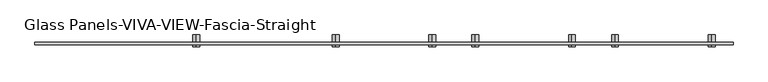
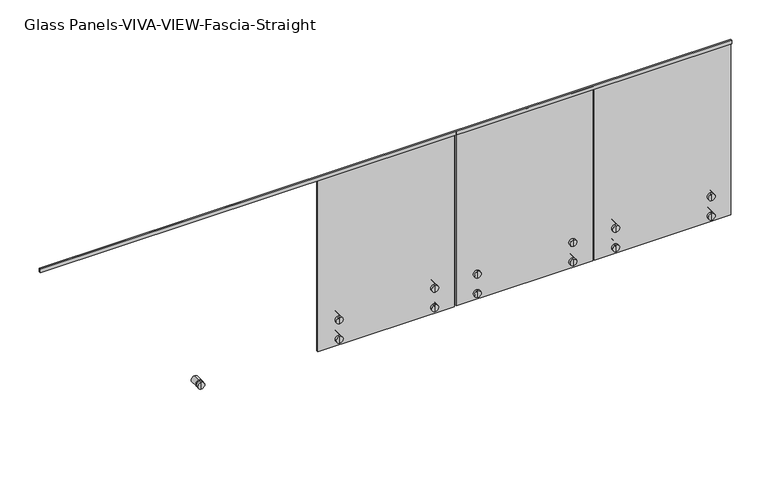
"""IFC4 building model written with IfcOpenShell, lengths in millimetres: railing geometry, Glass Panels-VIVA-VIEW-Fascia-Straight."""

from ifc_helpers import new_model, si_unit, frame, origin, place, context, project, spatial, polyline, circle_curve, outline, extrude, source, transform, mapped, element, save
from ifc_brep_helpers import plane_surface, cylinder_surface, advanced_brep


def glass_panels_viva_view_fascia_straight_8b977676(model_context):
    return source(origin(), model_context, "Body", "SolidModel", [
        extrude(outline(polyline([(-6666.5722999, 1092.2), (-6666.5722999, 1066.8), (-6668.1597999, 1066.8), (-6668.1597999, 1090.6125), (-6680.8597999, 1090.6125), (-6680.8597999, 1066.8), (-6682.4472999, 1066.8), (-6682.4472999, 1092.2), (-6666.5722999, 1092.2)])), frame((15089.4712478, 0.0, 0.0), z_axis=(1.0, 0.0, 0.0), x_axis=(0.0, 1.0, 0.0)), (0.0, 0.0, 1.0), 5143.5),
        advanced_brep(
        [(19363.4042944, -6698.322006, -254.0), (19363.4042944, -6698.322006, -203.2), (19363.4042944, -6698.322006, -228.6), (19363.4042944, -6680.859506, -254.0), (19363.4042944, -6680.859506, -203.2), (19363.4042944, -6680.859506, -234.315), (19363.4042944, -6680.859506, -222.885), (19363.4042944, -6668.159506, -234.315), (19363.4042944, -6668.159506, -222.885), (19363.4042944, -6668.159506, -254.0), (19363.4042944, -6668.159506, -203.2), (19363.4042944, -6611.0096529, -254.0), (19363.4042944, -6611.0096529, -203.2), (19363.4042944, -6611.0096529, -228.6)],
        [
            (0, 1, circle_curve(frame((19363.4042944, -6698.322006, -228.6), z_axis=(0.0, -1.0, 0.0), x_axis=(0.0, 0.0, 1.0)), 25.4)),
            (1, 2),
            (2, 0),
            (1, 0, circle_curve(frame((19363.4042944, -6698.322006, -228.6), z_axis=(0.0, -1.0, 0.0), x_axis=(0.0, 0.0, 1.0)), 25.4)),
            (3, 4, circle_curve(frame((19363.4042944, -6680.859506, -228.6), z_axis=(0.0, -1.0, 0.0), x_axis=(0.0, 0.0, 1.0)), 25.4)),
            (4, 1),
            (0, 3),
            (4, 3, circle_curve(frame((19363.4042944, -6680.859506, -228.6), z_axis=(0.0, -1.0, 0.0), x_axis=(0.0, 0.0, 1.0)), 25.4)),
            (5, 6, circle_curve(frame((19363.4042944, -6680.859506, -228.6), z_axis=(0.0, -1.0, 0.0), x_axis=(0.0, 0.0, 1.0)), 5.715)),
            (6, 4),
            (3, 5),
            (6, 5, circle_curve(frame((19363.4042944, -6680.859506, -228.6), z_axis=(0.0, -1.0, 0.0), x_axis=(0.0, 0.0, 1.0)), 5.715)),
            (7, 8, circle_curve(frame((19363.4042944, -6668.159506, -228.6), z_axis=(0.0, -1.0, 0.0), x_axis=(0.0, 0.0, 1.0)), 5.715)),
            (8, 6),
            (5, 7),
            (8, 7, circle_curve(frame((19363.4042944, -6668.159506, -228.6), z_axis=(0.0, -1.0, 0.0), x_axis=(0.0, 0.0, 1.0)), 5.715)),
            (9, 10, circle_curve(frame((19363.4042944, -6668.159506, -228.6), z_axis=(0.0, -1.0, 0.0), x_axis=(0.0, 0.0, 1.0)), 25.4)),
            (10, 8),
            (7, 9),
            (10, 9, circle_curve(frame((19363.4042944, -6668.159506, -228.6), z_axis=(0.0, -1.0, 0.0), x_axis=(0.0, 0.0, 1.0)), 25.4)),
            (11, 12, circle_curve(frame((19363.4042944, -6611.0096529, -228.6), z_axis=(0.0, -1.0, 0.0), x_axis=(0.0, 0.0, 1.0)), 25.4)),
            (12, 10),
            (9, 11),
            (12, 11, circle_curve(frame((19363.4042944, -6611.0096529, -228.6), z_axis=(0.0, -1.0, 0.0), x_axis=(0.0, 0.0, 1.0)), 25.4)),
            (13, 12),
            (11, 13),
        ],
        [
            plane_surface(frame((19363.4042944, -6698.322006, -228.6), z_axis=(0.0, -1.0, 0.0), x_axis=(0.0, 0.0, 1.0))),
            cylinder_surface(frame((19363.4042944, -6766.5846529, -228.6), z_axis=(0.0, 1.0, 0.0), x_axis=(0.0, 0.0, 1.0)), 25.4),
            plane_surface(frame((19363.4042944, -6680.859506, -228.6), z_axis=(0.0, 1.0, 0.0), x_axis=(0.0, 0.0, 1.0))),
            cylinder_surface(frame((19363.4042944, -6766.5846529, -228.6), z_axis=(0.0, 1.0, 0.0), x_axis=(0.0, 0.0, 1.0)), 5.715),
            plane_surface(frame((19363.4042944, -6668.159506, -228.6), z_axis=(0.0, -1.0, 0.0), x_axis=(0.0, 0.0, 1.0))),
            plane_surface(frame((19363.4042944, -6611.0096529, -228.6), z_axis=(0.0, 1.0, 0.0), x_axis=(0.0, 0.0, 1.0))),
        ],
        [
            (0, [[1, 2, 3]]),
            (0, [[4, -3, -2]]),
            (1, [[5, 6, -1, 7]]),
            (1, [[8, -7, -4, -6]]),
            (2, [[9, 10, -5, 11]]),
            (2, [[12, -11, -8, -10]]),
            (3, [[13, 14, -9, 15]]),
            (3, [[16, -15, -12, -14]]),
            (4, [[17, 18, -13, 19]]),
            (4, [[20, -19, -16, -18]]),
            (1, [[21, 22, -17, 23]]),
            (1, [[24, -23, -20, -22]]),
            (5, [[25, -21, 26]]),
            (5, [[-26, -24, -25]]),
        ],
    ),
        advanced_brep(
        [(19363.4042944, -6680.859506, -81.915), (19363.4042944, -6680.859506, -70.485), (19363.4042944, -6680.859506, -50.8), (19363.4042944, -6680.859506, -101.6), (19363.4042944, -6668.159506, -81.915), (19363.4042944, -6668.159506, -70.485), (19363.4042944, -6668.159506, -101.6), (19363.4042944, -6668.159506, -50.8), (19363.4042944, -6611.0096529, -101.6), (19363.4042944, -6611.0096529, -50.8), (19363.4042944, -6611.0096529, -76.2), (19363.4042944, -6698.322006, -101.6), (19363.4042944, -6698.322006, -50.8), (19363.4042944, -6698.322006, -76.2)],
        [
            (0, 1, circle_curve(frame((19363.4042944, -6680.859506, -76.2), z_axis=(0.0, -1.0, 0.0), x_axis=(0.0, 0.0, 1.0)), 5.715)),
            (1, 2),
            (2, 3, circle_curve(frame((19363.4042944, -6680.859506, -76.2), z_axis=(0.0, 1.0, 0.0), x_axis=(0.0, 0.0, 1.0)), 25.4)),
            (3, 0),
            (1, 0, circle_curve(frame((19363.4042944, -6680.859506, -76.2), z_axis=(0.0, -1.0, 0.0), x_axis=(0.0, 0.0, 1.0)), 5.715)),
            (3, 2, circle_curve(frame((19363.4042944, -6680.859506, -76.2), z_axis=(0.0, 1.0, 0.0), x_axis=(0.0, 0.0, 1.0)), 25.4)),
            (4, 5, circle_curve(frame((19363.4042944, -6668.159506, -76.2), z_axis=(0.0, -1.0, 0.0), x_axis=(0.0, 0.0, 1.0)), 5.715)),
            (5, 1),
            (0, 4),
            (5, 4, circle_curve(frame((19363.4042944, -6668.159506, -76.2), z_axis=(0.0, -1.0, 0.0), x_axis=(0.0, 0.0, 1.0)), 5.715)),
            (6, 7, circle_curve(frame((19363.4042944, -6668.159506, -76.2), z_axis=(0.0, -1.0, 0.0), x_axis=(0.0, 0.0, 1.0)), 25.4)),
            (7, 5),
            (4, 6),
            (7, 6, circle_curve(frame((19363.4042944, -6668.159506, -76.2), z_axis=(0.0, -1.0, 0.0), x_axis=(0.0, 0.0, 1.0)), 25.4)),
            (8, 9, circle_curve(frame((19363.4042944, -6611.0096529, -76.2), z_axis=(0.0, -1.0, 0.0), x_axis=(0.0, 0.0, 1.0)), 25.4)),
            (9, 7),
            (6, 8),
            (9, 8, circle_curve(frame((19363.4042944, -6611.0096529, -76.2), z_axis=(0.0, -1.0, 0.0), x_axis=(0.0, 0.0, 1.0)), 25.4)),
            (10, 9),
            (8, 10),
            (11, 12, circle_curve(frame((19363.4042944, -6698.322006, -76.2), z_axis=(0.0, -1.0, 0.0), x_axis=(0.0, 0.0, 1.0)), 25.4)),
            (12, 13),
            (13, 11),
            (12, 11, circle_curve(frame((19363.4042944, -6698.322006, -76.2), z_axis=(0.0, -1.0, 0.0), x_axis=(0.0, 0.0, 1.0)), 25.4)),
            (2, 12),
            (11, 3),
        ],
        [
            plane_surface(frame((19363.4042944, -6680.859506, -76.2), z_axis=(0.0, 1.0, 0.0), x_axis=(0.0, 0.0, 1.0))),
            cylinder_surface(frame((19363.4042944, -6766.5846529, -76.2), z_axis=(0.0, 1.0, 0.0), x_axis=(0.0, 0.0, 1.0)), 5.715),
            plane_surface(frame((19363.4042944, -6668.159506, -76.2), z_axis=(0.0, -1.0, 0.0), x_axis=(0.0, 0.0, 1.0))),
            cylinder_surface(frame((19363.4042944, -6766.5846529, -76.2), z_axis=(0.0, 1.0, 0.0), x_axis=(0.0, 0.0, 1.0)), 25.4),
            plane_surface(frame((19363.4042944, -6611.0096529, -76.2), z_axis=(0.0, 1.0, 0.0), x_axis=(0.0, 0.0, 1.0))),
            plane_surface(frame((19363.4042944, -6698.322006, -76.2), z_axis=(0.0, -1.0, 0.0), x_axis=(0.0, 0.0, 1.0))),
        ],
        [
            (0, [[1, 2, 3, 4]]),
            (0, [[5, -4, 6, -2]]),
            (1, [[7, 8, -1, 9]]),
            (1, [[10, -9, -5, -8]]),
            (2, [[11, 12, -7, 13]]),
            (2, [[14, -13, -10, -12]]),
            (3, [[15, 16, -11, 17]]),
            (3, [[18, -17, -14, -16]]),
            (4, [[19, -15, 20]]),
            (4, [[-20, -18, -19]]),
            (5, [[21, 22, 23]]),
            (5, [[24, -23, -22]]),
            (3, [[-3, 25, -21, 26]]),
            (3, [[-6, -26, -24, -25]]),
        ],
    ),
        advanced_brep(
        [(20074.6042944, -6698.322006, -254.0), (20074.6042944, -6698.322006, -203.2), (20074.6042944, -6698.322006, -228.6), (20074.6042944, -6680.859506, -254.0), (20074.6042944, -6680.859506, -203.2), (20074.6042944, -6680.859506, -234.315), (20074.6042944, -6680.859506, -222.885), (20074.6042944, -6668.159506, -234.315), (20074.6042944, -6668.159506, -222.885), (20074.6042944, -6668.159506, -254.0), (20074.6042944, -6668.159506, -203.2), (20074.6042944, -6611.0096529, -254.0), (20074.6042944, -6611.0096529, -203.2), (20074.6042944, -6611.0096529, -228.6)],
        [
            (0, 1, circle_curve(frame((20074.6042944, -6698.322006, -228.6), z_axis=(0.0, -1.0, 0.0), x_axis=(0.0, 0.0, 1.0)), 25.4)),
            (1, 2),
            (2, 0),
            (1, 0, circle_curve(frame((20074.6042944, -6698.322006, -228.6), z_axis=(0.0, -1.0, 0.0), x_axis=(0.0, 0.0, 1.0)), 25.4)),
            (3, 4, circle_curve(frame((20074.6042944, -6680.859506, -228.6), z_axis=(0.0, -1.0, 0.0), x_axis=(0.0, 0.0, 1.0)), 25.4)),
            (4, 1),
            (0, 3),
            (4, 3, circle_curve(frame((20074.6042944, -6680.859506, -228.6), z_axis=(0.0, -1.0, 0.0), x_axis=(0.0, 0.0, 1.0)), 25.4)),
            (5, 6, circle_curve(frame((20074.6042944, -6680.859506, -228.6), z_axis=(0.0, -1.0, 0.0), x_axis=(0.0, 0.0, 1.0)), 5.715)),
            (6, 4),
            (3, 5),
            (6, 5, circle_curve(frame((20074.6042944, -6680.859506, -228.6), z_axis=(0.0, -1.0, 0.0), x_axis=(0.0, 0.0, 1.0)), 5.715)),
            (7, 8, circle_curve(frame((20074.6042944, -6668.159506, -228.6), z_axis=(0.0, -1.0, 0.0), x_axis=(0.0, 0.0, 1.0)), 5.715)),
            (8, 6),
            (5, 7),
            (8, 7, circle_curve(frame((20074.6042944, -6668.159506, -228.6), z_axis=(0.0, -1.0, 0.0), x_axis=(0.0, 0.0, 1.0)), 5.715)),
            (9, 10, circle_curve(frame((20074.6042944, -6668.159506, -228.6), z_axis=(0.0, -1.0, 0.0), x_axis=(0.0, 0.0, 1.0)), 25.4)),
            (10, 8),
            (7, 9),
            (10, 9, circle_curve(frame((20074.6042944, -6668.159506, -228.6), z_axis=(0.0, -1.0, 0.0), x_axis=(0.0, 0.0, 1.0)), 25.4)),
            (11, 12, circle_curve(frame((20074.6042944, -6611.0096529, -228.6), z_axis=(0.0, -1.0, 0.0), x_axis=(0.0, 0.0, 1.0)), 25.4)),
            (12, 10),
            (9, 11),
            (12, 11, circle_curve(frame((20074.6042944, -6611.0096529, -228.6), z_axis=(0.0, -1.0, 0.0), x_axis=(0.0, 0.0, 1.0)), 25.4)),
            (13, 12),
            (11, 13),
        ],
        [
            plane_surface(frame((20074.6042944, -6698.322006, -228.6), z_axis=(0.0, -1.0, 0.0), x_axis=(0.0, 0.0, 1.0))),
            cylinder_surface(frame((20074.6042944, -6766.5846529, -228.6), z_axis=(0.0, 1.0, 0.0), x_axis=(0.0, 0.0, 1.0)), 25.4),
            plane_surface(frame((20074.6042944, -6680.859506, -228.6), z_axis=(0.0, 1.0, 0.0), x_axis=(0.0, 0.0, 1.0))),
            cylinder_surface(frame((20074.6042944, -6766.5846529, -228.6), z_axis=(0.0, 1.0, 0.0), x_axis=(0.0, 0.0, 1.0)), 5.715),
            plane_surface(frame((20074.6042944, -6668.159506, -228.6), z_axis=(0.0, -1.0, 0.0), x_axis=(0.0, 0.0, 1.0))),
            plane_surface(frame((20074.6042944, -6611.0096529, -228.6), z_axis=(0.0, 1.0, 0.0), x_axis=(0.0, 0.0, 1.0))),
        ],
        [
            (0, [[1, 2, 3]]),
            (0, [[4, -3, -2]]),
            (1, [[5, 6, -1, 7]]),
            (1, [[8, -7, -4, -6]]),
            (2, [[9, 10, -5, 11]]),
            (2, [[12, -11, -8, -10]]),
            (3, [[13, 14, -9, 15]]),
            (3, [[16, -15, -12, -14]]),
            (4, [[17, 18, -13, 19]]),
            (4, [[20, -19, -16, -18]]),
            (1, [[21, 22, -17, 23]]),
            (1, [[24, -23, -20, -22]]),
            (5, [[25, -21, 26]]),
            (5, [[-26, -24, -25]]),
        ],
    ),
        advanced_brep(
        [(20074.6042944, -6680.859506, -81.915), (20074.6042944, -6680.859506, -70.485), (20074.6042944, -6680.859506, -50.8), (20074.6042944, -6680.859506, -101.6), (20074.6042944, -6668.159506, -81.915), (20074.6042944, -6668.159506, -70.485), (20074.6042944, -6668.159506, -101.6), (20074.6042944, -6668.159506, -50.8), (20074.6042944, -6611.0096529, -101.6), (20074.6042944, -6611.0096529, -50.8), (20074.6042944, -6611.0096529, -76.2), (20074.6042944, -6698.322006, -101.6), (20074.6042944, -6698.322006, -50.8), (20074.6042944, -6698.322006, -76.2)],
        [
            (0, 1, circle_curve(frame((20074.6042944, -6680.859506, -76.2), z_axis=(0.0, -1.0, 0.0), x_axis=(0.0, 0.0, 1.0)), 5.715)),
            (1, 2),
            (2, 3, circle_curve(frame((20074.6042944, -6680.859506, -76.2), z_axis=(0.0, 1.0, 0.0), x_axis=(0.0, 0.0, 1.0)), 25.4)),
            (3, 0),
            (1, 0, circle_curve(frame((20074.6042944, -6680.859506, -76.2), z_axis=(0.0, -1.0, 0.0), x_axis=(0.0, 0.0, 1.0)), 5.715)),
            (3, 2, circle_curve(frame((20074.6042944, -6680.859506, -76.2), z_axis=(0.0, 1.0, 0.0), x_axis=(0.0, 0.0, 1.0)), 25.4)),
            (4, 5, circle_curve(frame((20074.6042944, -6668.159506, -76.2), z_axis=(0.0, -1.0, 0.0), x_axis=(0.0, 0.0, 1.0)), 5.715)),
            (5, 1),
            (0, 4),
            (5, 4, circle_curve(frame((20074.6042944, -6668.159506, -76.2), z_axis=(0.0, -1.0, 0.0), x_axis=(0.0, 0.0, 1.0)), 5.715)),
            (6, 7, circle_curve(frame((20074.6042944, -6668.159506, -76.2), z_axis=(0.0, -1.0, 0.0), x_axis=(0.0, 0.0, 1.0)), 25.4)),
            (7, 5),
            (4, 6),
            (7, 6, circle_curve(frame((20074.6042944, -6668.159506, -76.2), z_axis=(0.0, -1.0, 0.0), x_axis=(0.0, 0.0, 1.0)), 25.4)),
            (8, 9, circle_curve(frame((20074.6042944, -6611.0096529, -76.2), z_axis=(0.0, -1.0, 0.0), x_axis=(0.0, 0.0, 1.0)), 25.4)),
            (9, 7),
            (6, 8),
            (9, 8, circle_curve(frame((20074.6042944, -6611.0096529, -76.2), z_axis=(0.0, -1.0, 0.0), x_axis=(0.0, 0.0, 1.0)), 25.4)),
            (10, 9),
            (8, 10),
            (11, 12, circle_curve(frame((20074.6042944, -6698.322006, -76.2), z_axis=(0.0, -1.0, 0.0), x_axis=(0.0, 0.0, 1.0)), 25.4)),
            (12, 13),
            (13, 11),
            (12, 11, circle_curve(frame((20074.6042944, -6698.322006, -76.2), z_axis=(0.0, -1.0, 0.0), x_axis=(0.0, 0.0, 1.0)), 25.4)),
            (2, 12),
            (11, 3),
        ],
        [
            plane_surface(frame((20074.6042944, -6680.859506, -76.2), z_axis=(0.0, 1.0, 0.0), x_axis=(0.0, 0.0, 1.0))),
            cylinder_surface(frame((20074.6042944, -6766.5846529, -76.2), z_axis=(0.0, 1.0, 0.0), x_axis=(0.0, 0.0, 1.0)), 5.715),
            plane_surface(frame((20074.6042944, -6668.159506, -76.2), z_axis=(0.0, -1.0, 0.0), x_axis=(0.0, 0.0, 1.0))),
            cylinder_surface(frame((20074.6042944, -6766.5846529, -76.2), z_axis=(0.0, 1.0, 0.0), x_axis=(0.0, 0.0, 1.0)), 25.4),
            plane_surface(frame((20074.6042944, -6611.0096529, -76.2), z_axis=(0.0, 1.0, 0.0), x_axis=(0.0, 0.0, 1.0))),
            plane_surface(frame((20074.6042944, -6698.322006, -76.2), z_axis=(0.0, -1.0, 0.0), x_axis=(0.0, 0.0, 1.0))),
        ],
        [
            (0, [[1, 2, 3, 4]]),
            (0, [[5, -4, 6, -2]]),
            (1, [[7, 8, -1, 9]]),
            (1, [[10, -9, -5, -8]]),
            (2, [[11, 12, -7, 13]]),
            (2, [[14, -13, -10, -12]]),
            (3, [[15, 16, -11, 17]]),
            (3, [[18, -17, -14, -16]]),
            (4, [[19, -15, 20]]),
            (4, [[-20, -18, -19]]),
            (5, [[21, 22, 23]]),
            (5, [[24, -23, -22]]),
            (3, [[-3, 25, -21, 26]]),
            (3, [[-6, -26, -24, -25]]),
        ],
    ),
        extrude(outline(polyline([(19211.0042944, -6668.1597999), (20227.0042944, -6668.1597999), (20227.0042944, -6680.8597999), (19211.0042944, -6680.8597999), (19211.0042944, -6668.1597999)])), frame((0.0, 0.0, -279.4), z_axis=(0.0, 0.0, 1.0), x_axis=(1.0, 0.0, 0.0)), (0.0, 0.0, 1.0), 1370.0125),
        advanced_brep(
        [(18334.7042944, -6698.322006, -254.0), (18334.7042944, -6698.322006, -203.2), (18334.7042944, -6698.322006, -228.6), (18334.7042944, -6680.859506, -254.0), (18334.7042944, -6680.859506, -203.2), (18334.7042944, -6680.859506, -234.315), (18334.7042944, -6680.859506, -222.885), (18334.7042944, -6668.159506, -234.315), (18334.7042944, -6668.159506, -222.885), (18334.7042944, -6668.159506, -254.0), (18334.7042944, -6668.159506, -203.2), (18334.7042944, -6611.0096529, -254.0), (18334.7042944, -6611.0096529, -203.2), (18334.7042944, -6611.0096529, -228.6)],
        [
            (0, 1, circle_curve(frame((18334.7042944, -6698.322006, -228.6), z_axis=(0.0, -1.0, 0.0), x_axis=(0.0, 0.0, 1.0)), 25.4)),
            (1, 2),
            (2, 0),
            (1, 0, circle_curve(frame((18334.7042944, -6698.322006, -228.6), z_axis=(0.0, -1.0, 0.0), x_axis=(0.0, 0.0, 1.0)), 25.4)),
            (3, 4, circle_curve(frame((18334.7042944, -6680.859506, -228.6), z_axis=(0.0, -1.0, 0.0), x_axis=(0.0, 0.0, 1.0)), 25.4)),
            (4, 1),
            (0, 3),
            (4, 3, circle_curve(frame((18334.7042944, -6680.859506, -228.6), z_axis=(0.0, -1.0, 0.0), x_axis=(0.0, 0.0, 1.0)), 25.4)),
            (5, 6, circle_curve(frame((18334.7042944, -6680.859506, -228.6), z_axis=(0.0, -1.0, 0.0), x_axis=(0.0, 0.0, 1.0)), 5.715)),
            (6, 4),
            (3, 5),
            (6, 5, circle_curve(frame((18334.7042944, -6680.859506, -228.6), z_axis=(0.0, -1.0, 0.0), x_axis=(0.0, 0.0, 1.0)), 5.715)),
            (7, 8, circle_curve(frame((18334.7042944, -6668.159506, -228.6), z_axis=(0.0, -1.0, 0.0), x_axis=(0.0, 0.0, 1.0)), 5.715)),
            (8, 6),
            (5, 7),
            (8, 7, circle_curve(frame((18334.7042944, -6668.159506, -228.6), z_axis=(0.0, -1.0, 0.0), x_axis=(0.0, 0.0, 1.0)), 5.715)),
            (9, 10, circle_curve(frame((18334.7042944, -6668.159506, -228.6), z_axis=(0.0, -1.0, 0.0), x_axis=(0.0, 0.0, 1.0)), 25.4)),
            (10, 8),
            (7, 9),
            (10, 9, circle_curve(frame((18334.7042944, -6668.159506, -228.6), z_axis=(0.0, -1.0, 0.0), x_axis=(0.0, 0.0, 1.0)), 25.4)),
            (11, 12, circle_curve(frame((18334.7042944, -6611.0096529, -228.6), z_axis=(0.0, -1.0, 0.0), x_axis=(0.0, 0.0, 1.0)), 25.4)),
            (12, 10),
            (9, 11),
            (12, 11, circle_curve(frame((18334.7042944, -6611.0096529, -228.6), z_axis=(0.0, -1.0, 0.0), x_axis=(0.0, 0.0, 1.0)), 25.4)),
            (13, 12),
            (11, 13),
        ],
        [
            plane_surface(frame((18334.7042944, -6698.322006, -228.6), z_axis=(0.0, -1.0, 0.0), x_axis=(0.0, 0.0, 1.0))),
            cylinder_surface(frame((18334.7042944, -6766.5846529, -228.6), z_axis=(0.0, 1.0, 0.0), x_axis=(0.0, 0.0, 1.0)), 25.4),
            plane_surface(frame((18334.7042944, -6680.859506, -228.6), z_axis=(0.0, 1.0, 0.0), x_axis=(0.0, 0.0, 1.0))),
            cylinder_surface(frame((18334.7042944, -6766.5846529, -228.6), z_axis=(0.0, 1.0, 0.0), x_axis=(0.0, 0.0, 1.0)), 5.715),
            plane_surface(frame((18334.7042944, -6668.159506, -228.6), z_axis=(0.0, -1.0, 0.0), x_axis=(0.0, 0.0, 1.0))),
            plane_surface(frame((18334.7042944, -6611.0096529, -228.6), z_axis=(0.0, 1.0, 0.0), x_axis=(0.0, 0.0, 1.0))),
        ],
        [
            (0, [[1, 2, 3]]),
            (0, [[4, -3, -2]]),
            (1, [[5, 6, -1, 7]]),
            (1, [[8, -7, -4, -6]]),
            (2, [[9, 10, -5, 11]]),
            (2, [[12, -11, -8, -10]]),
            (3, [[13, 14, -9, 15]]),
            (3, [[16, -15, -12, -14]]),
            (4, [[17, 18, -13, 19]]),
            (4, [[20, -19, -16, -18]]),
            (1, [[21, 22, -17, 23]]),
            (1, [[24, -23, -20, -22]]),
            (5, [[25, -21, 26]]),
            (5, [[-26, -24, -25]]),
        ],
    ),
        advanced_brep(
        [(18334.7042944, -6680.859506, -81.915), (18334.7042944, -6680.859506, -70.485), (18334.7042944, -6680.859506, -50.8), (18334.7042944, -6680.859506, -101.6), (18334.7042944, -6668.159506, -81.915), (18334.7042944, -6668.159506, -70.485), (18334.7042944, -6668.159506, -101.6), (18334.7042944, -6668.159506, -50.8), (18334.7042944, -6611.0096529, -101.6), (18334.7042944, -6611.0096529, -50.8), (18334.7042944, -6611.0096529, -76.2), (18334.7042944, -6698.322006, -101.6), (18334.7042944, -6698.322006, -50.8), (18334.7042944, -6698.322006, -76.2)],
        [
            (0, 1, circle_curve(frame((18334.7042944, -6680.859506, -76.2), z_axis=(0.0, -1.0, 0.0), x_axis=(0.0, 0.0, 1.0)), 5.715)),
            (1, 2),
            (2, 3, circle_curve(frame((18334.7042944, -6680.859506, -76.2), z_axis=(0.0, 1.0, 0.0), x_axis=(0.0, 0.0, 1.0)), 25.4)),
            (3, 0),
            (1, 0, circle_curve(frame((18334.7042944, -6680.859506, -76.2), z_axis=(0.0, -1.0, 0.0), x_axis=(0.0, 0.0, 1.0)), 5.715)),
            (3, 2, circle_curve(frame((18334.7042944, -6680.859506, -76.2), z_axis=(0.0, 1.0, 0.0), x_axis=(0.0, 0.0, 1.0)), 25.4)),
            (4, 5, circle_curve(frame((18334.7042944, -6668.159506, -76.2), z_axis=(0.0, -1.0, 0.0), x_axis=(0.0, 0.0, 1.0)), 5.715)),
            (5, 1),
            (0, 4),
            (5, 4, circle_curve(frame((18334.7042944, -6668.159506, -76.2), z_axis=(0.0, -1.0, 0.0), x_axis=(0.0, 0.0, 1.0)), 5.715)),
            (6, 7, circle_curve(frame((18334.7042944, -6668.159506, -76.2), z_axis=(0.0, -1.0, 0.0), x_axis=(0.0, 0.0, 1.0)), 25.4)),
            (7, 5),
            (4, 6),
            (7, 6, circle_curve(frame((18334.7042944, -6668.159506, -76.2), z_axis=(0.0, -1.0, 0.0), x_axis=(0.0, 0.0, 1.0)), 25.4)),
            (8, 9, circle_curve(frame((18334.7042944, -6611.0096529, -76.2), z_axis=(0.0, -1.0, 0.0), x_axis=(0.0, 0.0, 1.0)), 25.4)),
            (9, 7),
            (6, 8),
            (9, 8, circle_curve(frame((18334.7042944, -6611.0096529, -76.2), z_axis=(0.0, -1.0, 0.0), x_axis=(0.0, 0.0, 1.0)), 25.4)),
            (10, 9),
            (8, 10),
            (11, 12, circle_curve(frame((18334.7042944, -6698.322006, -76.2), z_axis=(0.0, -1.0, 0.0), x_axis=(0.0, 0.0, 1.0)), 25.4)),
            (12, 13),
            (13, 11),
            (12, 11, circle_curve(frame((18334.7042944, -6698.322006, -76.2), z_axis=(0.0, -1.0, 0.0), x_axis=(0.0, 0.0, 1.0)), 25.4)),
            (2, 12),
            (11, 3),
        ],
        [
            plane_surface(frame((18334.7042944, -6680.859506, -76.2), z_axis=(0.0, 1.0, 0.0), x_axis=(0.0, 0.0, 1.0))),
            cylinder_surface(frame((18334.7042944, -6766.5846529, -76.2), z_axis=(0.0, 1.0, 0.0), x_axis=(0.0, 0.0, 1.0)), 5.715),
            plane_surface(frame((18334.7042944, -6668.159506, -76.2), z_axis=(0.0, -1.0, 0.0), x_axis=(0.0, 0.0, 1.0))),
            cylinder_surface(frame((18334.7042944, -6766.5846529, -76.2), z_axis=(0.0, 1.0, 0.0), x_axis=(0.0, 0.0, 1.0)), 25.4),
            plane_surface(frame((18334.7042944, -6611.0096529, -76.2), z_axis=(0.0, 1.0, 0.0), x_axis=(0.0, 0.0, 1.0))),
            plane_surface(frame((18334.7042944, -6698.322006, -76.2), z_axis=(0.0, -1.0, 0.0), x_axis=(0.0, 0.0, 1.0))),
        ],
        [
            (0, [[1, 2, 3, 4]]),
            (0, [[5, -4, 6, -2]]),
            (1, [[7, 8, -1, 9]]),
            (1, [[10, -9, -5, -8]]),
            (2, [[11, 12, -7, 13]]),
            (2, [[14, -13, -10, -12]]),
            (3, [[15, 16, -11, 17]]),
            (3, [[18, -17, -14, -16]]),
            (4, [[19, -15, 20]]),
            (4, [[-20, -18, -19]]),
            (5, [[21, 22, 23]]),
            (5, [[24, -23, -22]]),
            (3, [[-3, 25, -21, 26]]),
            (3, [[-6, -26, -24, -25]]),
        ],
    ),
        advanced_brep(
        [(19045.9042944, -6698.322006, -254.0), (19045.9042944, -6698.322006, -203.2), (19045.9042944, -6698.322006, -228.6), (19045.9042944, -6680.859506, -254.0), (19045.9042944, -6680.859506, -203.2), (19045.9042944, -6680.859506, -234.315), (19045.9042944, -6680.859506, -222.885), (19045.9042944, -6668.159506, -234.315), (19045.9042944, -6668.159506, -222.885), (19045.9042944, -6668.159506, -254.0), (19045.9042944, -6668.159506, -203.2), (19045.9042944, -6611.0096529, -254.0), (19045.9042944, -6611.0096529, -203.2), (19045.9042944, -6611.0096529, -228.6)],
        [
            (0, 1, circle_curve(frame((19045.9042944, -6698.322006, -228.6), z_axis=(0.0, -1.0, 0.0), x_axis=(0.0, 0.0, 1.0)), 25.4)),
            (1, 2),
            (2, 0),
            (1, 0, circle_curve(frame((19045.9042944, -6698.322006, -228.6), z_axis=(0.0, -1.0, 0.0), x_axis=(0.0, 0.0, 1.0)), 25.4)),
            (3, 4, circle_curve(frame((19045.9042944, -6680.859506, -228.6), z_axis=(0.0, -1.0, 0.0), x_axis=(0.0, 0.0, 1.0)), 25.4)),
            (4, 1),
            (0, 3),
            (4, 3, circle_curve(frame((19045.9042944, -6680.859506, -228.6), z_axis=(0.0, -1.0, 0.0), x_axis=(0.0, 0.0, 1.0)), 25.4)),
            (5, 6, circle_curve(frame((19045.9042944, -6680.859506, -228.6), z_axis=(0.0, -1.0, 0.0), x_axis=(0.0, 0.0, 1.0)), 5.715)),
            (6, 4),
            (3, 5),
            (6, 5, circle_curve(frame((19045.9042944, -6680.859506, -228.6), z_axis=(0.0, -1.0, 0.0), x_axis=(0.0, 0.0, 1.0)), 5.715)),
            (7, 8, circle_curve(frame((19045.9042944, -6668.159506, -228.6), z_axis=(0.0, -1.0, 0.0), x_axis=(0.0, 0.0, 1.0)), 5.715)),
            (8, 6),
            (5, 7),
            (8, 7, circle_curve(frame((19045.9042944, -6668.159506, -228.6), z_axis=(0.0, -1.0, 0.0), x_axis=(0.0, 0.0, 1.0)), 5.715)),
            (9, 10, circle_curve(frame((19045.9042944, -6668.159506, -228.6), z_axis=(0.0, -1.0, 0.0), x_axis=(0.0, 0.0, 1.0)), 25.4)),
            (10, 8),
            (7, 9),
            (10, 9, circle_curve(frame((19045.9042944, -6668.159506, -228.6), z_axis=(0.0, -1.0, 0.0), x_axis=(0.0, 0.0, 1.0)), 25.4)),
            (11, 12, circle_curve(frame((19045.9042944, -6611.0096529, -228.6), z_axis=(0.0, -1.0, 0.0), x_axis=(0.0, 0.0, 1.0)), 25.4)),
            (12, 10),
            (9, 11),
            (12, 11, circle_curve(frame((19045.9042944, -6611.0096529, -228.6), z_axis=(0.0, -1.0, 0.0), x_axis=(0.0, 0.0, 1.0)), 25.4)),
            (13, 12),
            (11, 13),
        ],
        [
            plane_surface(frame((19045.9042944, -6698.322006, -228.6), z_axis=(0.0, -1.0, 0.0), x_axis=(0.0, 0.0, 1.0))),
            cylinder_surface(frame((19045.9042944, -6766.5846529, -228.6), z_axis=(0.0, 1.0, 0.0), x_axis=(0.0, 0.0, 1.0)), 25.4),
            plane_surface(frame((19045.9042944, -6680.859506, -228.6), z_axis=(0.0, 1.0, 0.0), x_axis=(0.0, 0.0, 1.0))),
            cylinder_surface(frame((19045.9042944, -6766.5846529, -228.6), z_axis=(0.0, 1.0, 0.0), x_axis=(0.0, 0.0, 1.0)), 5.715),
            plane_surface(frame((19045.9042944, -6668.159506, -228.6), z_axis=(0.0, -1.0, 0.0), x_axis=(0.0, 0.0, 1.0))),
            plane_surface(frame((19045.9042944, -6611.0096529, -228.6), z_axis=(0.0, 1.0, 0.0), x_axis=(0.0, 0.0, 1.0))),
        ],
        [
            (0, [[1, 2, 3]]),
            (0, [[4, -3, -2]]),
            (1, [[5, 6, -1, 7]]),
            (1, [[8, -7, -4, -6]]),
            (2, [[9, 10, -5, 11]]),
            (2, [[12, -11, -8, -10]]),
            (3, [[13, 14, -9, 15]]),
            (3, [[16, -15, -12, -14]]),
            (4, [[17, 18, -13, 19]]),
            (4, [[20, -19, -16, -18]]),
            (1, [[21, 22, -17, 23]]),
            (1, [[24, -23, -20, -22]]),
            (5, [[25, -21, 26]]),
            (5, [[-26, -24, -25]]),
        ],
    ),
        advanced_brep(
        [(19045.9042944, -6680.859506, -81.915), (19045.9042944, -6680.859506, -70.485), (19045.9042944, -6680.859506, -50.8), (19045.9042944, -6680.859506, -101.6), (19045.9042944, -6668.159506, -81.915), (19045.9042944, -6668.159506, -70.485), (19045.9042944, -6668.159506, -101.6), (19045.9042944, -6668.159506, -50.8), (19045.9042944, -6611.0096529, -101.6), (19045.9042944, -6611.0096529, -50.8), (19045.9042944, -6611.0096529, -76.2), (19045.9042944, -6698.322006, -101.6), (19045.9042944, -6698.322006, -50.8), (19045.9042944, -6698.322006, -76.2)],
        [
            (0, 1, circle_curve(frame((19045.9042944, -6680.859506, -76.2), z_axis=(0.0, -1.0, 0.0), x_axis=(0.0, 0.0, 1.0)), 5.715)),
            (1, 2),
            (2, 3, circle_curve(frame((19045.9042944, -6680.859506, -76.2), z_axis=(0.0, 1.0, 0.0), x_axis=(0.0, 0.0, 1.0)), 25.4)),
            (3, 0),
            (1, 0, circle_curve(frame((19045.9042944, -6680.859506, -76.2), z_axis=(0.0, -1.0, 0.0), x_axis=(0.0, 0.0, 1.0)), 5.715)),
            (3, 2, circle_curve(frame((19045.9042944, -6680.859506, -76.2), z_axis=(0.0, 1.0, 0.0), x_axis=(0.0, 0.0, 1.0)), 25.4)),
            (4, 5, circle_curve(frame((19045.9042944, -6668.159506, -76.2), z_axis=(0.0, -1.0, 0.0), x_axis=(0.0, 0.0, 1.0)), 5.715)),
            (5, 1),
            (0, 4),
            (5, 4, circle_curve(frame((19045.9042944, -6668.159506, -76.2), z_axis=(0.0, -1.0, 0.0), x_axis=(0.0, 0.0, 1.0)), 5.715)),
            (6, 7, circle_curve(frame((19045.9042944, -6668.159506, -76.2), z_axis=(0.0, -1.0, 0.0), x_axis=(0.0, 0.0, 1.0)), 25.4)),
            (7, 5),
            (4, 6),
            (7, 6, circle_curve(frame((19045.9042944, -6668.159506, -76.2), z_axis=(0.0, -1.0, 0.0), x_axis=(0.0, 0.0, 1.0)), 25.4)),
            (8, 9, circle_curve(frame((19045.9042944, -6611.0096529, -76.2), z_axis=(0.0, -1.0, 0.0), x_axis=(0.0, 0.0, 1.0)), 25.4)),
            (9, 7),
            (6, 8),
            (9, 8, circle_curve(frame((19045.9042944, -6611.0096529, -76.2), z_axis=(0.0, -1.0, 0.0), x_axis=(0.0, 0.0, 1.0)), 25.4)),
            (10, 9),
            (8, 10),
            (11, 12, circle_curve(frame((19045.9042944, -6698.322006, -76.2), z_axis=(0.0, -1.0, 0.0), x_axis=(0.0, 0.0, 1.0)), 25.4)),
            (12, 13),
            (13, 11),
            (12, 11, circle_curve(frame((19045.9042944, -6698.322006, -76.2), z_axis=(0.0, -1.0, 0.0), x_axis=(0.0, 0.0, 1.0)), 25.4)),
            (2, 12),
            (11, 3),
        ],
        [
            plane_surface(frame((19045.9042944, -6680.859506, -76.2), z_axis=(0.0, 1.0, 0.0), x_axis=(0.0, 0.0, 1.0))),
            cylinder_surface(frame((19045.9042944, -6766.5846529, -76.2), z_axis=(0.0, 1.0, 0.0), x_axis=(0.0, 0.0, 1.0)), 5.715),
            plane_surface(frame((19045.9042944, -6668.159506, -76.2), z_axis=(0.0, -1.0, 0.0), x_axis=(0.0, 0.0, 1.0))),
            cylinder_surface(frame((19045.9042944, -6766.5846529, -76.2), z_axis=(0.0, 1.0, 0.0), x_axis=(0.0, 0.0, 1.0)), 25.4),
            plane_surface(frame((19045.9042944, -6611.0096529, -76.2), z_axis=(0.0, 1.0, 0.0), x_axis=(0.0, 0.0, 1.0))),
            plane_surface(frame((19045.9042944, -6698.322006, -76.2), z_axis=(0.0, -1.0, 0.0), x_axis=(0.0, 0.0, 1.0))),
        ],
        [
            (0, [[1, 2, 3, 4]]),
            (0, [[5, -4, 6, -2]]),
            (1, [[7, 8, -1, 9]]),
            (1, [[10, -9, -5, -8]]),
            (2, [[11, 12, -7, 13]]),
            (2, [[14, -13, -10, -12]]),
            (3, [[15, 16, -11, 17]]),
            (3, [[18, -17, -14, -16]]),
            (4, [[19, -15, 20]]),
            (4, [[-20, -18, -19]]),
            (5, [[21, 22, 23]]),
            (5, [[24, -23, -22]]),
            (3, [[-3, 25, -21, 26]]),
            (3, [[-6, -26, -24, -25]]),
        ],
    ),
        extrude(outline(polyline([(18182.3042944, -6668.1597999), (19198.3042944, -6668.1597999), (19198.3042944, -6680.8597999), (18182.3042944, -6680.8597999), (18182.3042944, -6668.1597999)])), frame((0.0, 0.0, -279.4), z_axis=(0.0, 0.0, 1.0), x_axis=(1.0, 0.0, 0.0)), (0.0, 0.0, 1.0), 1370.0125),
        advanced_brep(
        [(17306.0042944, -6698.322006, -254.0), (17306.0042944, -6698.322006, -203.2), (17306.0042944, -6698.322006, -228.6), (17306.0042944, -6680.859506, -254.0), (17306.0042944, -6680.859506, -203.2), (17306.0042944, -6680.859506, -234.315), (17306.0042944, -6680.859506, -222.885), (17306.0042944, -6668.159506, -234.315), (17306.0042944, -6668.159506, -222.885), (17306.0042944, -6668.159506, -254.0), (17306.0042944, -6668.159506, -203.2), (17306.0042944, -6611.0096529, -254.0), (17306.0042944, -6611.0096529, -203.2), (17306.0042944, -6611.0096529, -228.6)],
        [
            (0, 1, circle_curve(frame((17306.0042944, -6698.322006, -228.6), z_axis=(0.0, -1.0, 0.0), x_axis=(0.0, 0.0, 1.0)), 25.4)),
            (1, 2),
            (2, 0),
            (1, 0, circle_curve(frame((17306.0042944, -6698.322006, -228.6), z_axis=(0.0, -1.0, 0.0), x_axis=(0.0, 0.0, 1.0)), 25.4)),
            (3, 4, circle_curve(frame((17306.0042944, -6680.859506, -228.6), z_axis=(0.0, -1.0, 0.0), x_axis=(0.0, 0.0, 1.0)), 25.4)),
            (4, 1),
            (0, 3),
            (4, 3, circle_curve(frame((17306.0042944, -6680.859506, -228.6), z_axis=(0.0, -1.0, 0.0), x_axis=(0.0, 0.0, 1.0)), 25.4)),
            (5, 6, circle_curve(frame((17306.0042944, -6680.859506, -228.6), z_axis=(0.0, -1.0, 0.0), x_axis=(0.0, 0.0, 1.0)), 5.715)),
            (6, 4),
            (3, 5),
            (6, 5, circle_curve(frame((17306.0042944, -6680.859506, -228.6), z_axis=(0.0, -1.0, 0.0), x_axis=(0.0, 0.0, 1.0)), 5.715)),
            (7, 8, circle_curve(frame((17306.0042944, -6668.159506, -228.6), z_axis=(0.0, -1.0, 0.0), x_axis=(0.0, 0.0, 1.0)), 5.715)),
            (8, 6),
            (5, 7),
            (8, 7, circle_curve(frame((17306.0042944, -6668.159506, -228.6), z_axis=(0.0, -1.0, 0.0), x_axis=(0.0, 0.0, 1.0)), 5.715)),
            (9, 10, circle_curve(frame((17306.0042944, -6668.159506, -228.6), z_axis=(0.0, -1.0, 0.0), x_axis=(0.0, 0.0, 1.0)), 25.4)),
            (10, 8),
            (7, 9),
            (10, 9, circle_curve(frame((17306.0042944, -6668.159506, -228.6), z_axis=(0.0, -1.0, 0.0), x_axis=(0.0, 0.0, 1.0)), 25.4)),
            (11, 12, circle_curve(frame((17306.0042944, -6611.0096529, -228.6), z_axis=(0.0, -1.0, 0.0), x_axis=(0.0, 0.0, 1.0)), 25.4)),
            (12, 10),
            (9, 11),
            (12, 11, circle_curve(frame((17306.0042944, -6611.0096529, -228.6), z_axis=(0.0, -1.0, 0.0), x_axis=(0.0, 0.0, 1.0)), 25.4)),
            (13, 12),
            (11, 13),
        ],
        [
            plane_surface(frame((17306.0042944, -6698.322006, -228.6), z_axis=(0.0, -1.0, 0.0), x_axis=(0.0, 0.0, 1.0))),
            cylinder_surface(frame((17306.0042944, -6766.5846529, -228.6), z_axis=(0.0, 1.0, 0.0), x_axis=(0.0, 0.0, 1.0)), 25.4),
            plane_surface(frame((17306.0042944, -6680.859506, -228.6), z_axis=(0.0, 1.0, 0.0), x_axis=(0.0, 0.0, 1.0))),
            cylinder_surface(frame((17306.0042944, -6766.5846529, -228.6), z_axis=(0.0, 1.0, 0.0), x_axis=(0.0, 0.0, 1.0)), 5.715),
            plane_surface(frame((17306.0042944, -6668.159506, -228.6), z_axis=(0.0, -1.0, 0.0), x_axis=(0.0, 0.0, 1.0))),
            plane_surface(frame((17306.0042944, -6611.0096529, -228.6), z_axis=(0.0, 1.0, 0.0), x_axis=(0.0, 0.0, 1.0))),
        ],
        [
            (0, [[1, 2, 3]]),
            (0, [[4, -3, -2]]),
            (1, [[5, 6, -1, 7]]),
            (1, [[8, -7, -4, -6]]),
            (2, [[9, 10, -5, 11]]),
            (2, [[12, -11, -8, -10]]),
            (3, [[13, 14, -9, 15]]),
            (3, [[16, -15, -12, -14]]),
            (4, [[17, 18, -13, 19]]),
            (4, [[20, -19, -16, -18]]),
            (1, [[21, 22, -17, 23]]),
            (1, [[24, -23, -20, -22]]),
            (5, [[25, -21, 26]]),
            (5, [[-26, -24, -25]]),
        ],
    ),
        advanced_brep(
        [(17306.0042944, -6680.859506, -81.915), (17306.0042944, -6680.859506, -70.485), (17306.0042944, -6680.859506, -50.8), (17306.0042944, -6680.859506, -101.6), (17306.0042944, -6668.159506, -81.915), (17306.0042944, -6668.159506, -70.485), (17306.0042944, -6668.159506, -101.6), (17306.0042944, -6668.159506, -50.8), (17306.0042944, -6611.0096529, -101.6), (17306.0042944, -6611.0096529, -50.8), (17306.0042944, -6611.0096529, -76.2), (17306.0042944, -6698.322006, -101.6), (17306.0042944, -6698.322006, -50.8), (17306.0042944, -6698.322006, -76.2)],
        [
            (0, 1, circle_curve(frame((17306.0042944, -6680.859506, -76.2), z_axis=(0.0, -1.0, 0.0), x_axis=(0.0, 0.0, 1.0)), 5.715)),
            (1, 2),
            (2, 3, circle_curve(frame((17306.0042944, -6680.859506, -76.2), z_axis=(0.0, 1.0, 0.0), x_axis=(0.0, 0.0, 1.0)), 25.4)),
            (3, 0),
            (1, 0, circle_curve(frame((17306.0042944, -6680.859506, -76.2), z_axis=(0.0, -1.0, 0.0), x_axis=(0.0, 0.0, 1.0)), 5.715)),
            (3, 2, circle_curve(frame((17306.0042944, -6680.859506, -76.2), z_axis=(0.0, 1.0, 0.0), x_axis=(0.0, 0.0, 1.0)), 25.4)),
            (4, 5, circle_curve(frame((17306.0042944, -6668.159506, -76.2), z_axis=(0.0, -1.0, 0.0), x_axis=(0.0, 0.0, 1.0)), 5.715)),
            (5, 1),
            (0, 4),
            (5, 4, circle_curve(frame((17306.0042944, -6668.159506, -76.2), z_axis=(0.0, -1.0, 0.0), x_axis=(0.0, 0.0, 1.0)), 5.715)),
            (6, 7, circle_curve(frame((17306.0042944, -6668.159506, -76.2), z_axis=(0.0, -1.0, 0.0), x_axis=(0.0, 0.0, 1.0)), 25.4)),
            (7, 5),
            (4, 6),
            (7, 6, circle_curve(frame((17306.0042944, -6668.159506, -76.2), z_axis=(0.0, -1.0, 0.0), x_axis=(0.0, 0.0, 1.0)), 25.4)),
            (8, 9, circle_curve(frame((17306.0042944, -6611.0096529, -76.2), z_axis=(0.0, -1.0, 0.0), x_axis=(0.0, 0.0, 1.0)), 25.4)),
            (9, 7),
            (6, 8),
            (9, 8, circle_curve(frame((17306.0042944, -6611.0096529, -76.2), z_axis=(0.0, -1.0, 0.0), x_axis=(0.0, 0.0, 1.0)), 25.4)),
            (10, 9),
            (8, 10),
            (11, 12, circle_curve(frame((17306.0042944, -6698.322006, -76.2), z_axis=(0.0, -1.0, 0.0), x_axis=(0.0, 0.0, 1.0)), 25.4)),
            (12, 13),
            (13, 11),
            (12, 11, circle_curve(frame((17306.0042944, -6698.322006, -76.2), z_axis=(0.0, -1.0, 0.0), x_axis=(0.0, 0.0, 1.0)), 25.4)),
            (2, 12),
            (11, 3),
        ],
        [
            plane_surface(frame((17306.0042944, -6680.859506, -76.2), z_axis=(0.0, 1.0, 0.0), x_axis=(0.0, 0.0, 1.0))),
            cylinder_surface(frame((17306.0042944, -6766.5846529, -76.2), z_axis=(0.0, 1.0, 0.0), x_axis=(0.0, 0.0, 1.0)), 5.715),
            plane_surface(frame((17306.0042944, -6668.159506, -76.2), z_axis=(0.0, -1.0, 0.0), x_axis=(0.0, 0.0, 1.0))),
            cylinder_surface(frame((17306.0042944, -6766.5846529, -76.2), z_axis=(0.0, 1.0, 0.0), x_axis=(0.0, 0.0, 1.0)), 25.4),
            plane_surface(frame((17306.0042944, -6611.0096529, -76.2), z_axis=(0.0, 1.0, 0.0), x_axis=(0.0, 0.0, 1.0))),
            plane_surface(frame((17306.0042944, -6698.322006, -76.2), z_axis=(0.0, -1.0, 0.0), x_axis=(0.0, 0.0, 1.0))),
        ],
        [
            (0, [[1, 2, 3, 4]]),
            (0, [[5, -4, 6, -2]]),
            (1, [[7, 8, -1, 9]]),
            (1, [[10, -9, -5, -8]]),
            (2, [[11, 12, -7, 13]]),
            (2, [[14, -13, -10, -12]]),
            (3, [[15, 16, -11, 17]]),
            (3, [[18, -17, -14, -16]]),
            (4, [[19, -15, 20]]),
            (4, [[-20, -18, -19]]),
            (5, [[21, 22, 23]]),
            (5, [[24, -23, -22]]),
            (3, [[-3, 25, -21, 26]]),
            (3, [[-6, -26, -24, -25]]),
        ],
    ),
        advanced_brep(
        [(18017.2042944, -6698.322006, -254.0), (18017.2042944, -6698.322006, -203.2), (18017.2042944, -6698.322006, -228.6), (18017.2042944, -6680.859506, -254.0), (18017.2042944, -6680.859506, -203.2), (18017.2042944, -6680.859506, -234.315), (18017.2042944, -6680.859506, -222.885), (18017.2042944, -6668.159506, -234.315), (18017.2042944, -6668.159506, -222.885), (18017.2042944, -6668.159506, -254.0), (18017.2042944, -6668.159506, -203.2), (18017.2042944, -6611.0096529, -254.0), (18017.2042944, -6611.0096529, -203.2), (18017.2042944, -6611.0096529, -228.6)],
        [
            (0, 1, circle_curve(frame((18017.2042944, -6698.322006, -228.6), z_axis=(0.0, -1.0, 0.0), x_axis=(0.0, 0.0, 1.0)), 25.4)),
            (1, 2),
            (2, 0),
            (1, 0, circle_curve(frame((18017.2042944, -6698.322006, -228.6), z_axis=(0.0, -1.0, 0.0), x_axis=(0.0, 0.0, 1.0)), 25.4)),
            (3, 4, circle_curve(frame((18017.2042944, -6680.859506, -228.6), z_axis=(0.0, -1.0, 0.0), x_axis=(0.0, 0.0, 1.0)), 25.4)),
            (4, 1),
            (0, 3),
            (4, 3, circle_curve(frame((18017.2042944, -6680.859506, -228.6), z_axis=(0.0, -1.0, 0.0), x_axis=(0.0, 0.0, 1.0)), 25.4)),
            (5, 6, circle_curve(frame((18017.2042944, -6680.859506, -228.6), z_axis=(0.0, -1.0, 0.0), x_axis=(0.0, 0.0, 1.0)), 5.715)),
            (6, 4),
            (3, 5),
            (6, 5, circle_curve(frame((18017.2042944, -6680.859506, -228.6), z_axis=(0.0, -1.0, 0.0), x_axis=(0.0, 0.0, 1.0)), 5.715)),
            (7, 8, circle_curve(frame((18017.2042944, -6668.159506, -228.6), z_axis=(0.0, -1.0, 0.0), x_axis=(0.0, 0.0, 1.0)), 5.715)),
            (8, 6),
            (5, 7),
            (8, 7, circle_curve(frame((18017.2042944, -6668.159506, -228.6), z_axis=(0.0, -1.0, 0.0), x_axis=(0.0, 0.0, 1.0)), 5.715)),
            (9, 10, circle_curve(frame((18017.2042944, -6668.159506, -228.6), z_axis=(0.0, -1.0, 0.0), x_axis=(0.0, 0.0, 1.0)), 25.4)),
            (10, 8),
            (7, 9),
            (10, 9, circle_curve(frame((18017.2042944, -6668.159506, -228.6), z_axis=(0.0, -1.0, 0.0), x_axis=(0.0, 0.0, 1.0)), 25.4)),
            (11, 12, circle_curve(frame((18017.2042944, -6611.0096529, -228.6), z_axis=(0.0, -1.0, 0.0), x_axis=(0.0, 0.0, 1.0)), 25.4)),
            (12, 10),
            (9, 11),
            (12, 11, circle_curve(frame((18017.2042944, -6611.0096529, -228.6), z_axis=(0.0, -1.0, 0.0), x_axis=(0.0, 0.0, 1.0)), 25.4)),
            (13, 12),
            (11, 13),
        ],
        [
            plane_surface(frame((18017.2042944, -6698.322006, -228.6), z_axis=(0.0, -1.0, 0.0), x_axis=(0.0, 0.0, 1.0))),
            cylinder_surface(frame((18017.2042944, -6766.5846529, -228.6), z_axis=(0.0, 1.0, 0.0), x_axis=(0.0, 0.0, 1.0)), 25.4),
            plane_surface(frame((18017.2042944, -6680.859506, -228.6), z_axis=(0.0, 1.0, 0.0), x_axis=(0.0, 0.0, 1.0))),
            cylinder_surface(frame((18017.2042944, -6766.5846529, -228.6), z_axis=(0.0, 1.0, 0.0), x_axis=(0.0, 0.0, 1.0)), 5.715),
            plane_surface(frame((18017.2042944, -6668.159506, -228.6), z_axis=(0.0, -1.0, 0.0), x_axis=(0.0, 0.0, 1.0))),
            plane_surface(frame((18017.2042944, -6611.0096529, -228.6), z_axis=(0.0, 1.0, 0.0), x_axis=(0.0, 0.0, 1.0))),
        ],
        [
            (0, [[1, 2, 3]]),
            (0, [[4, -3, -2]]),
            (1, [[5, 6, -1, 7]]),
            (1, [[8, -7, -4, -6]]),
            (2, [[9, 10, -5, 11]]),
            (2, [[12, -11, -8, -10]]),
            (3, [[13, 14, -9, 15]]),
            (3, [[16, -15, -12, -14]]),
            (4, [[17, 18, -13, 19]]),
            (4, [[20, -19, -16, -18]]),
            (1, [[21, 22, -17, 23]]),
            (1, [[24, -23, -20, -22]]),
            (5, [[25, -21, 26]]),
            (5, [[-26, -24, -25]]),
        ],
    ),
        advanced_brep(
        [(18017.2042944, -6680.859506, -81.915), (18017.2042944, -6680.859506, -70.485), (18017.2042944, -6680.859506, -50.8), (18017.2042944, -6680.859506, -101.6), (18017.2042944, -6668.159506, -81.915), (18017.2042944, -6668.159506, -70.485), (18017.2042944, -6668.159506, -101.6), (18017.2042944, -6668.159506, -50.8), (18017.2042944, -6611.0096529, -101.6), (18017.2042944, -6611.0096529, -50.8), (18017.2042944, -6611.0096529, -76.2), (18017.2042944, -6698.322006, -101.6), (18017.2042944, -6698.322006, -50.8), (18017.2042944, -6698.322006, -76.2)],
        [
            (0, 1, circle_curve(frame((18017.2042944, -6680.859506, -76.2), z_axis=(0.0, -1.0, 0.0), x_axis=(0.0, 0.0, 1.0)), 5.715)),
            (1, 2),
            (2, 3, circle_curve(frame((18017.2042944, -6680.859506, -76.2), z_axis=(0.0, 1.0, 0.0), x_axis=(0.0, 0.0, 1.0)), 25.4)),
            (3, 0),
            (1, 0, circle_curve(frame((18017.2042944, -6680.859506, -76.2), z_axis=(0.0, -1.0, 0.0), x_axis=(0.0, 0.0, 1.0)), 5.715)),
            (3, 2, circle_curve(frame((18017.2042944, -6680.859506, -76.2), z_axis=(0.0, 1.0, 0.0), x_axis=(0.0, 0.0, 1.0)), 25.4)),
            (4, 5, circle_curve(frame((18017.2042944, -6668.159506, -76.2), z_axis=(0.0, -1.0, 0.0), x_axis=(0.0, 0.0, 1.0)), 5.715)),
            (5, 1),
            (0, 4),
            (5, 4, circle_curve(frame((18017.2042944, -6668.159506, -76.2), z_axis=(0.0, -1.0, 0.0), x_axis=(0.0, 0.0, 1.0)), 5.715)),
            (6, 7, circle_curve(frame((18017.2042944, -6668.159506, -76.2), z_axis=(0.0, -1.0, 0.0), x_axis=(0.0, 0.0, 1.0)), 25.4)),
            (7, 5),
            (4, 6),
            (7, 6, circle_curve(frame((18017.2042944, -6668.159506, -76.2), z_axis=(0.0, -1.0, 0.0), x_axis=(0.0, 0.0, 1.0)), 25.4)),
            (8, 9, circle_curve(frame((18017.2042944, -6611.0096529, -76.2), z_axis=(0.0, -1.0, 0.0), x_axis=(0.0, 0.0, 1.0)), 25.4)),
            (9, 7),
            (6, 8),
            (9, 8, circle_curve(frame((18017.2042944, -6611.0096529, -76.2), z_axis=(0.0, -1.0, 0.0), x_axis=(0.0, 0.0, 1.0)), 25.4)),
            (10, 9),
            (8, 10),
            (11, 12, circle_curve(frame((18017.2042944, -6698.322006, -76.2), z_axis=(0.0, -1.0, 0.0), x_axis=(0.0, 0.0, 1.0)), 25.4)),
            (12, 13),
            (13, 11),
            (12, 11, circle_curve(frame((18017.2042944, -6698.322006, -76.2), z_axis=(0.0, -1.0, 0.0), x_axis=(0.0, 0.0, 1.0)), 25.4)),
            (2, 12),
            (11, 3),
        ],
        [
            plane_surface(frame((18017.2042944, -6680.859506, -76.2), z_axis=(0.0, 1.0, 0.0), x_axis=(0.0, 0.0, 1.0))),
            cylinder_surface(frame((18017.2042944, -6766.5846529, -76.2), z_axis=(0.0, 1.0, 0.0), x_axis=(0.0, 0.0, 1.0)), 5.715),
            plane_surface(frame((18017.2042944, -6668.159506, -76.2), z_axis=(0.0, -1.0, 0.0), x_axis=(0.0, 0.0, 1.0))),
            cylinder_surface(frame((18017.2042944, -6766.5846529, -76.2), z_axis=(0.0, 1.0, 0.0), x_axis=(0.0, 0.0, 1.0)), 25.4),
            plane_surface(frame((18017.2042944, -6611.0096529, -76.2), z_axis=(0.0, 1.0, 0.0), x_axis=(0.0, 0.0, 1.0))),
            plane_surface(frame((18017.2042944, -6698.322006, -76.2), z_axis=(0.0, -1.0, 0.0), x_axis=(0.0, 0.0, 1.0))),
        ],
        [
            (0, [[1, 2, 3, 4]]),
            (0, [[5, -4, 6, -2]]),
            (1, [[7, 8, -1, 9]]),
            (1, [[10, -9, -5, -8]]),
            (2, [[11, 12, -7, 13]]),
            (2, [[14, -13, -10, -12]]),
            (3, [[15, 16, -11, 17]]),
            (3, [[18, -17, -14, -16]]),
            (4, [[19, -15, 20]]),
            (4, [[-20, -18, -19]]),
            (5, [[21, 22, 23]]),
            (5, [[24, -23, -22]]),
            (3, [[-3, 25, -21, 26]]),
            (3, [[-6, -26, -24, -25]]),
        ],
    ),
        extrude(outline(polyline([(17153.6042944, -6668.1597999), (18169.6042944, -6668.1597999), (18169.6042944, -6680.8597999), (17153.6042944, -6680.8597999), (17153.6042944, -6668.1597999)])), frame((0.0, 0.0, -279.4), z_axis=(0.0, 0.0, 1.0), x_axis=(1.0, 0.0, 0.0)), (0.0, 0.0, 1.0), 1370.0125),
        advanced_brep(
        [(16277.3042944, -6698.322006, -254.0), (16277.3042944, -6698.322006, -203.2), (16277.3042944, -6698.322006, -228.6), (16277.3042944, -6680.859506, -254.0), (16277.3042944, -6680.859506, -203.2), (16277.3042944, -6680.859506, -234.315), (16277.3042944, -6680.859506, -222.885), (16277.3042944, -6668.159506, -234.315), (16277.3042944, -6668.159506, -222.885), (16277.3042944, -6668.159506, -254.0), (16277.3042944, -6668.159506, -203.2), (16277.3042944, -6611.0096529, -254.0), (16277.3042944, -6611.0096529, -203.2), (16277.3042944, -6611.0096529, -228.6)],
        [
            (0, 1, circle_curve(frame((16277.3042944, -6698.322006, -228.6), z_axis=(0.0, -1.0, 0.0), x_axis=(0.0, 0.0, 1.0)), 25.4)),
            (1, 2),
            (2, 0),
            (1, 0, circle_curve(frame((16277.3042944, -6698.322006, -228.6), z_axis=(0.0, -1.0, 0.0), x_axis=(0.0, 0.0, 1.0)), 25.4)),
            (3, 4, circle_curve(frame((16277.3042944, -6680.859506, -228.6), z_axis=(0.0, -1.0, 0.0), x_axis=(0.0, 0.0, 1.0)), 25.4)),
            (4, 1),
            (0, 3),
            (4, 3, circle_curve(frame((16277.3042944, -6680.859506, -228.6), z_axis=(0.0, -1.0, 0.0), x_axis=(0.0, 0.0, 1.0)), 25.4)),
            (5, 6, circle_curve(frame((16277.3042944, -6680.859506, -228.6), z_axis=(0.0, -1.0, 0.0), x_axis=(0.0, 0.0, 1.0)), 5.715)),
            (6, 4),
            (3, 5),
            (6, 5, circle_curve(frame((16277.3042944, -6680.859506, -228.6), z_axis=(0.0, -1.0, 0.0), x_axis=(0.0, 0.0, 1.0)), 5.715)),
            (7, 8, circle_curve(frame((16277.3042944, -6668.159506, -228.6), z_axis=(0.0, -1.0, 0.0), x_axis=(0.0, 0.0, 1.0)), 5.715)),
            (8, 6),
            (5, 7),
            (8, 7, circle_curve(frame((16277.3042944, -6668.159506, -228.6), z_axis=(0.0, -1.0, 0.0), x_axis=(0.0, 0.0, 1.0)), 5.715)),
            (9, 10, circle_curve(frame((16277.3042944, -6668.159506, -228.6), z_axis=(0.0, -1.0, 0.0), x_axis=(0.0, 0.0, 1.0)), 25.4)),
            (10, 8),
            (7, 9),
            (10, 9, circle_curve(frame((16277.3042944, -6668.159506, -228.6), z_axis=(0.0, -1.0, 0.0), x_axis=(0.0, 0.0, 1.0)), 25.4)),
            (11, 12, circle_curve(frame((16277.3042944, -6611.0096529, -228.6), z_axis=(0.0, -1.0, 0.0), x_axis=(0.0, 0.0, 1.0)), 25.4)),
            (12, 10),
            (9, 11),
            (12, 11, circle_curve(frame((16277.3042944, -6611.0096529, -228.6), z_axis=(0.0, -1.0, 0.0), x_axis=(0.0, 0.0, 1.0)), 25.4)),
            (13, 12),
            (11, 13),
        ],
        [
            plane_surface(frame((16277.3042944, -6698.322006, -228.6), z_axis=(0.0, -1.0, 0.0), x_axis=(0.0, 0.0, 1.0))),
            cylinder_surface(frame((16277.3042944, -6766.5846529, -228.6), z_axis=(0.0, 1.0, 0.0), x_axis=(0.0, 0.0, 1.0)), 25.4),
            plane_surface(frame((16277.3042944, -6680.859506, -228.6), z_axis=(0.0, 1.0, 0.0), x_axis=(0.0, 0.0, 1.0))),
            cylinder_surface(frame((16277.3042944, -6766.5846529, -228.6), z_axis=(0.0, 1.0, 0.0), x_axis=(0.0, 0.0, 1.0)), 5.715),
            plane_surface(frame((16277.3042944, -6668.159506, -228.6), z_axis=(0.0, -1.0, 0.0), x_axis=(0.0, 0.0, 1.0))),
            plane_surface(frame((16277.3042944, -6611.0096529, -228.6), z_axis=(0.0, 1.0, 0.0), x_axis=(0.0, 0.0, 1.0))),
        ],
        [
            (0, [[1, 2, 3]]),
            (0, [[4, -3, -2]]),
            (1, [[5, 6, -1, 7]]),
            (1, [[8, -7, -4, -6]]),
            (2, [[9, 10, -5, 11]]),
            (2, [[12, -11, -8, -10]]),
            (3, [[13, 14, -9, 15]]),
            (3, [[16, -15, -12, -14]]),
            (4, [[17, 18, -13, 19]]),
            (4, [[20, -19, -16, -18]]),
            (1, [[21, 22, -17, 23]]),
            (1, [[24, -23, -20, -22]]),
            (5, [[25, -21, 26]]),
            (5, [[-26, -24, -25]]),
        ],
    ),
    ])


if __name__ == "__main__":
    model = new_model("IFC4")
    model_context = context("Model", 3, world=origin())
    ifc_project = project(units=[si_unit("LENGTHUNIT", "METRE", prefix="MILLI")], contexts=[model_context])
    site = spatial("IfcSite", under=ifc_project)
    building = spatial("IfcBuilding", under=site)
    placement = place(None, origin())
    glass_panels_viva_view_fascia_straight_shape = glass_panels_viva_view_fascia_straight_8b977676(model_context)
    element("IfcRailing", 1, ObjectType="Glass Panels-VIVA-VIEW-Fascia-Straight", at=placement, inside=building, context=model_context, shape_type="MappedRepresentation", body=[
        mapped(glass_panels_viva_view_fascia_straight_shape, transform((0.0, 0.0, 0.0), x_axis=(1.0, 0.0, 0.0), y_axis=(0.0, 1.0, 0.0), z_axis=(0.0, 0.0, 1.0))),
    ])
    save(model, "model.ifc")
